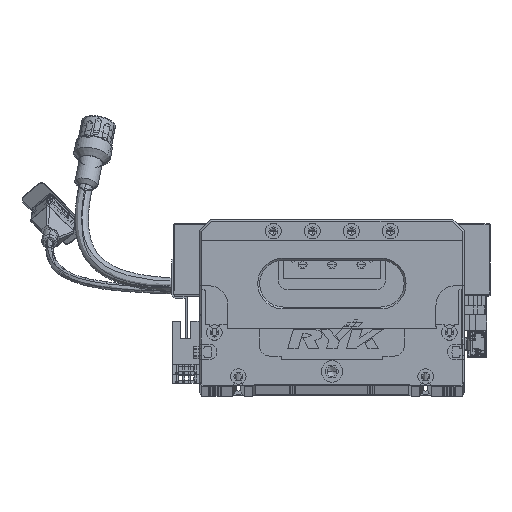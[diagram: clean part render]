
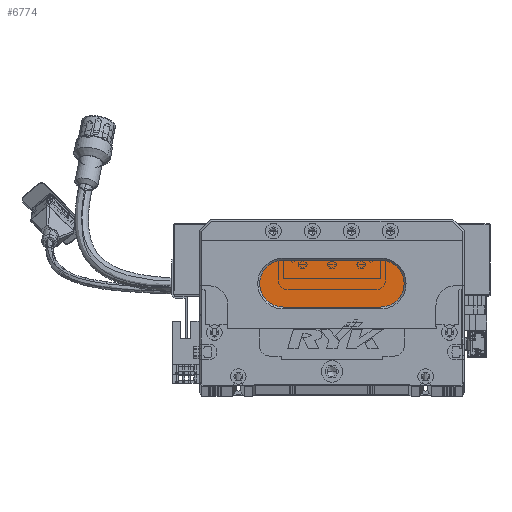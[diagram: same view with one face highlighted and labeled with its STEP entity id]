
A CAD part, top view. The second image highlights one B-rep face of the part: STEP entity #6774.
In plain terms, the highlighted planar face has unit normal (0, 0, 1) as drawn and (0, 0, -1) by its records, which use the part's own axes.
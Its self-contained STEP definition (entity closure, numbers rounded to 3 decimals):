
#790 = LINE ( 'NONE', #15712, #112478 ) ;
#2048 = VERTEX_POINT ( 'NONE', #30683 ) ;
#3809 = DIRECTION ( 'NONE',  ( 0., 0., -1. ) ) ;
#4657 = ORIENTED_EDGE ( 'NONE', *, *, #49439, .T. ) ;
#6732 = CIRCLE ( 'NONE', #22732, 12. ) ;
#6774 = ADVANCED_FACE ( 'NONE', ( #11508 ), #37894, .T. ) ;
#10593 = EDGE_CURVE ( 'NONE', #83076, #68537, #106926, .T. ) ;
#11508 = FACE_OUTER_BOUND ( 'NONE', #35859, .T. ) ;
#12331 = CARTESIAN_POINT ( 'NONE',  ( 43., 52., 13. ) ) ;
#15261 = DIRECTION ( 'NONE',  ( -1., 0., 0. ) ) ;
#15712 = CARTESIAN_POINT ( 'NONE',  ( 93., 64., 13. ) ) ;
#22732 = AXIS2_PLACEMENT_3D ( 'NONE', #32204, #106048, #53497 ) ;
#27143 = VECTOR ( 'NONE', #43537, 1000. ) ;
#29192 = ORIENTED_EDGE ( 'NONE', *, *, #123015, .T. ) ;
#30683 = CARTESIAN_POINT ( 'NONE',  ( 43., 40., 13. ) ) ;
#32204 = CARTESIAN_POINT ( 'NONE',  ( 43., 52., 13. ) ) ;
#33781 = ORIENTED_EDGE ( 'NONE', *, *, #92541, .T. ) ;
#35859 = EDGE_LOOP ( 'NONE', ( #33781, #4657, #29192, #113118, #57317 ) ) ;
#37411 = CARTESIAN_POINT ( 'NONE',  ( 93., 52., 13. ) ) ;
#37894 = PLANE ( 'NONE',  #69861 ) ;
#39354 = AXIS2_PLACEMENT_3D ( 'NONE', #12331, #3809, #40082 ) ;
#39750 = CARTESIAN_POINT ( 'NONE',  ( 31., 52., 13. ) ) ;
#40082 = DIRECTION ( 'NONE',  ( -1., 0., 0. ) ) ;
#43537 = DIRECTION ( 'NONE',  ( -1., 0., 0. ) ) ;
#49439 = EDGE_CURVE ( 'NONE', #58409, #2048, #101570, .T. ) ;
#53497 = DIRECTION ( 'NONE',  ( -1., 0., 0. ) ) ;
#57317 = ORIENTED_EDGE ( 'NONE', *, *, #66411, .T. ) ;
#58409 = VERTEX_POINT ( 'NONE', #94919 ) ;
#66411 = EDGE_CURVE ( 'NONE', #68537, #77605, #790, .T. ) ;
#68537 = VERTEX_POINT ( 'NONE', #131449 ) ;
#69861 = AXIS2_PLACEMENT_3D ( 'NONE', #37411, #124523, #15261 ) ;
#77605 = VERTEX_POINT ( 'NONE', #112579 ) ;
#80914 = DIRECTION ( 'NONE',  ( 0., 0., -1. ) ) ;
#83076 = VERTEX_POINT ( 'NONE', #39750 ) ;
#88004 = CIRCLE ( 'NONE', #97818, 12. ) ;
#89453 = CARTESIAN_POINT ( 'NONE',  ( 93., 52., 13. ) ) ;
#92541 = EDGE_CURVE ( 'NONE', #77605, #58409, #88004, .T. ) ;
#94919 = CARTESIAN_POINT ( 'NONE',  ( 93., 40., 13. ) ) ;
#97818 = AXIS2_PLACEMENT_3D ( 'NONE', #89453, #80914, #102227 ) ;
#101570 = LINE ( 'NONE', #120215, #27143 ) ;
#102227 = DIRECTION ( 'NONE',  ( -1., 0., 0. ) ) ;
#106048 = DIRECTION ( 'NONE',  ( 0., 0., -1. ) ) ;
#106926 = CIRCLE ( 'NONE', #39354, 12. ) ;
#112478 = VECTOR ( 'NONE', #124017, 1000. ) ;
#112579 = CARTESIAN_POINT ( 'NONE',  ( 93., 64., 13. ) ) ;
#113118 = ORIENTED_EDGE ( 'NONE', *, *, #10593, .T. ) ;
#120215 = CARTESIAN_POINT ( 'NONE',  ( 93., 40., 13. ) ) ;
#123015 = EDGE_CURVE ( 'NONE', #2048, #83076, #6732, .T. ) ;
#124017 = DIRECTION ( 'NONE',  ( 1., 0., 0. ) ) ;
#124523 = DIRECTION ( 'NONE',  ( 0., 0., -1. ) ) ;
#131449 = CARTESIAN_POINT ( 'NONE',  ( 43., 64., 13. ) ) ;
